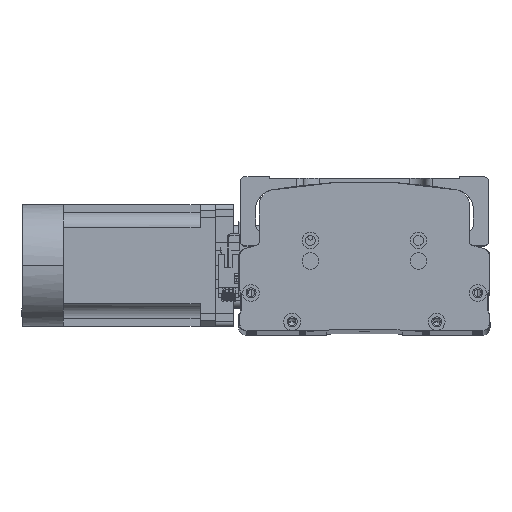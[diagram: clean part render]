
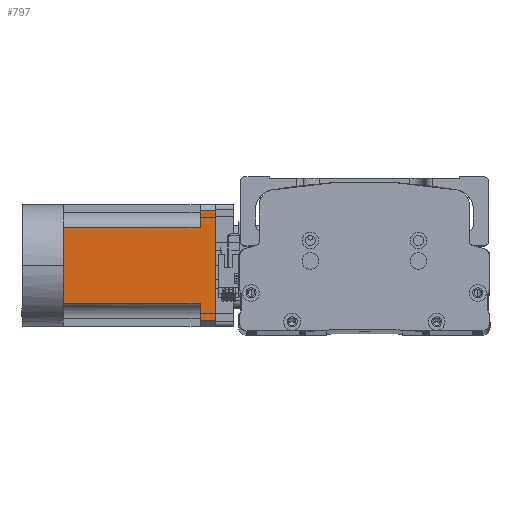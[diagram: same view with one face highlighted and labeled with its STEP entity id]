
A CAD part, top view. The second image highlights one B-rep face of the part: STEP entity #797.
In plain terms, the highlighted planar face has unit normal (0, -0.003, 1) as drawn and (0, 0, -1) by its records, which use the part's own axes.
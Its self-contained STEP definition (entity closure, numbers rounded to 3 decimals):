
#797 = ADVANCED_FACE ( 'NONE', ( #39748 ), #2708, .T. ) ;
#1285 = CARTESIAN_POINT ( 'NONE',  ( -36., 100., -40. ) ) ;
#1359 = EDGE_CURVE ( 'NONE', #42022, #4529, #48080, .T. ) ;
#2441 = LINE ( 'NONE', #24101, #44006 ) ;
#2529 = EDGE_CURVE ( 'NONE', #17249, #28545, #14495, .T. ) ;
#2708 = PLANE ( 'NONE',  #23657 ) ;
#2940 = CARTESIAN_POINT ( 'NONE',  ( 36., 90., -40. ) ) ;
#3182 = ORIENTED_EDGE ( 'NONE', *, *, #29942, .T. ) ;
#3326 = EDGE_CURVE ( 'NONE', #23139, #42022, #8742, .T. ) ;
#3435 = ORIENTED_EDGE ( 'NONE', *, *, #7204, .T. ) ;
#3860 = VECTOR ( 'NONE', #11479, 1000. ) ;
#4457 = CARTESIAN_POINT ( 'NONE',  ( 36., 100., -40. ) ) ;
#4529 = VERTEX_POINT ( 'NONE', #25990 ) ;
#5064 = CARTESIAN_POINT ( 'NONE',  ( 25., 90., -40. ) ) ;
#5108 = ORIENTED_EDGE ( 'NONE', *, *, #1359, .T. ) ;
#5245 = EDGE_CURVE ( 'NONE', #49423, #23139, #45603, .T. ) ;
#5268 = VECTOR ( 'NONE', #30445, 1000. ) ;
#5355 = LINE ( 'NONE', #39622, #46906 ) ;
#5708 = ORIENTED_EDGE ( 'NONE', *, *, #19283, .F. ) ;
#7204 = EDGE_CURVE ( 'NONE', #7331, #49423, #25263, .T. ) ;
#7331 = VERTEX_POINT ( 'NONE', #4457 ) ;
#7757 = CARTESIAN_POINT ( 'NONE',  ( 25., -27., -40. ) ) ;
#8742 = LINE ( 'NONE', #7757, #19421 ) ;
#9563 = ORIENTED_EDGE ( 'NONE', *, *, #49694, .T. ) ;
#10779 = CARTESIAN_POINT ( 'NONE',  ( -40., -27., -40. ) ) ;
#11479 = DIRECTION ( 'NONE',  ( 0., -1., 0. ) ) ;
#12090 = DIRECTION ( 'NONE',  ( -1., 0., 0. ) ) ;
#14344 = ORIENTED_EDGE ( 'NONE', *, *, #3326, .T. ) ;
#14495 = LINE ( 'NONE', #20750, #34720 ) ;
#17249 = VERTEX_POINT ( 'NONE', #27484 ) ;
#17886 = EDGE_CURVE ( 'NONE', #29432, #17249, #2441, .T. ) ;
#18880 = DIRECTION ( 'NONE',  ( 0., 0., -1. ) ) ;
#19264 = LINE ( 'NONE', #19992, #39463 ) ;
#19283 = EDGE_CURVE ( 'NONE', #7331, #28545, #5355, .T. ) ;
#19421 = VECTOR ( 'NONE', #39981, 1000. ) ;
#19992 = CARTESIAN_POINT ( 'NONE',  ( -25., -27., -40. ) ) ;
#20114 = CARTESIAN_POINT ( 'NONE',  ( 25., 0., -40. ) ) ;
#20492 = CARTESIAN_POINT ( 'NONE',  ( -25., 0., -40. ) ) ;
#20750 = CARTESIAN_POINT ( 'NONE',  ( -36., -27., -40. ) ) ;
#20813 = CARTESIAN_POINT ( 'NONE',  ( -40., 0., -40. ) ) ;
#20851 = VECTOR ( 'NONE', #37075, 1000. ) ;
#23139 = VERTEX_POINT ( 'NONE', #5064 ) ;
#23657 = AXIS2_PLACEMENT_3D ( 'NONE', #10779, #18880, #47027 ) ;
#24101 = CARTESIAN_POINT ( 'NONE',  ( -40., 90., -40. ) ) ;
#25263 = LINE ( 'NONE', #35646, #3860 ) ;
#25990 = CARTESIAN_POINT ( 'NONE',  ( 0., 0., -40. ) ) ;
#27360 = CARTESIAN_POINT ( 'NONE',  ( -40., 90., -40. ) ) ;
#27484 = CARTESIAN_POINT ( 'NONE',  ( -36., 90., -40. ) ) ;
#28545 = VERTEX_POINT ( 'NONE', #1285 ) ;
#29432 = VERTEX_POINT ( 'NONE', #44492 ) ;
#29942 = EDGE_CURVE ( 'NONE', #32693, #29432, #19264, .T. ) ;
#30445 = DIRECTION ( 'NONE',  ( -1., 0., 0. ) ) ;
#32693 = VERTEX_POINT ( 'NONE', #20492 ) ;
#34720 = VECTOR ( 'NONE', #40838, 1000. ) ;
#34981 = VECTOR ( 'NONE', #35484, 1000. ) ;
#35484 = DIRECTION ( 'NONE',  ( -1., 0., 0. ) ) ;
#35646 = CARTESIAN_POINT ( 'NONE',  ( 36., -27., -40. ) ) ;
#35743 = DIRECTION ( 'NONE',  ( -1., 0., 0. ) ) ;
#36718 = ORIENTED_EDGE ( 'NONE', *, *, #5245, .T. ) ;
#36776 = EDGE_LOOP ( 'NONE', ( #5708, #3435, #36718, #14344, #5108, #9563, #3182, #38712, #45449 ) ) ;
#37075 = DIRECTION ( 'NONE',  ( -1., 0., 0. ) ) ;
#38712 = ORIENTED_EDGE ( 'NONE', *, *, #17886, .T. ) ;
#39463 = VECTOR ( 'NONE', #44097, 1000. ) ;
#39622 = CARTESIAN_POINT ( 'NONE',  ( -40., 100., -40. ) ) ;
#39748 = FACE_OUTER_BOUND ( 'NONE', #36776, .T. ) ;
#39981 = DIRECTION ( 'NONE',  ( 0., -1., 0. ) ) ;
#40838 = DIRECTION ( 'NONE',  ( 0., 1., 0. ) ) ;
#42022 = VERTEX_POINT ( 'NONE', #20114 ) ;
#43552 = LINE ( 'NONE', #20813, #20851 ) ;
#44006 = VECTOR ( 'NONE', #12090, 1000. ) ;
#44097 = DIRECTION ( 'NONE',  ( 0., 1., 0. ) ) ;
#44492 = CARTESIAN_POINT ( 'NONE',  ( -25., 90., -40. ) ) ;
#45449 = ORIENTED_EDGE ( 'NONE', *, *, #2529, .T. ) ;
#45603 = LINE ( 'NONE', #27360, #34981 ) ;
#46417 = CARTESIAN_POINT ( 'NONE',  ( -40., 0., -40. ) ) ;
#46906 = VECTOR ( 'NONE', #35743, 1000. ) ;
#47027 = DIRECTION ( 'NONE',  ( -1., 0., 0. ) ) ;
#48080 = LINE ( 'NONE', #46417, #5268 ) ;
#49423 = VERTEX_POINT ( 'NONE', #2940 ) ;
#49694 = EDGE_CURVE ( 'NONE', #4529, #32693, #43552, .T. ) ;
